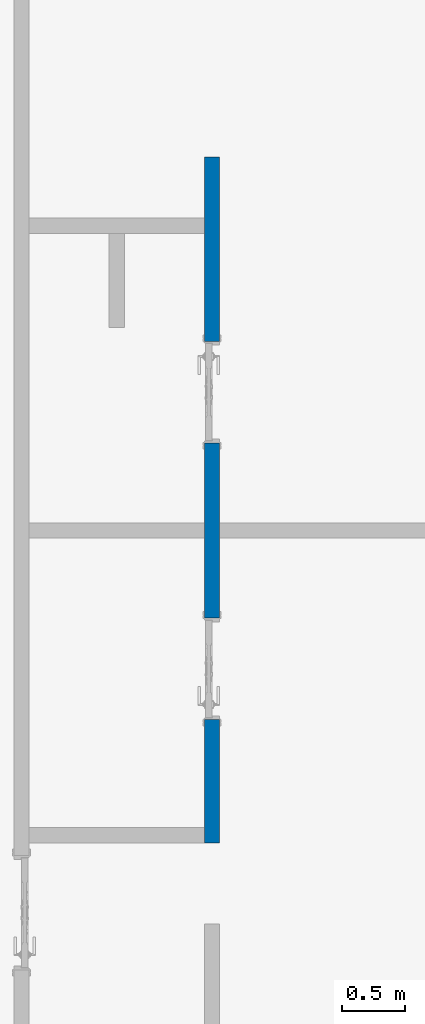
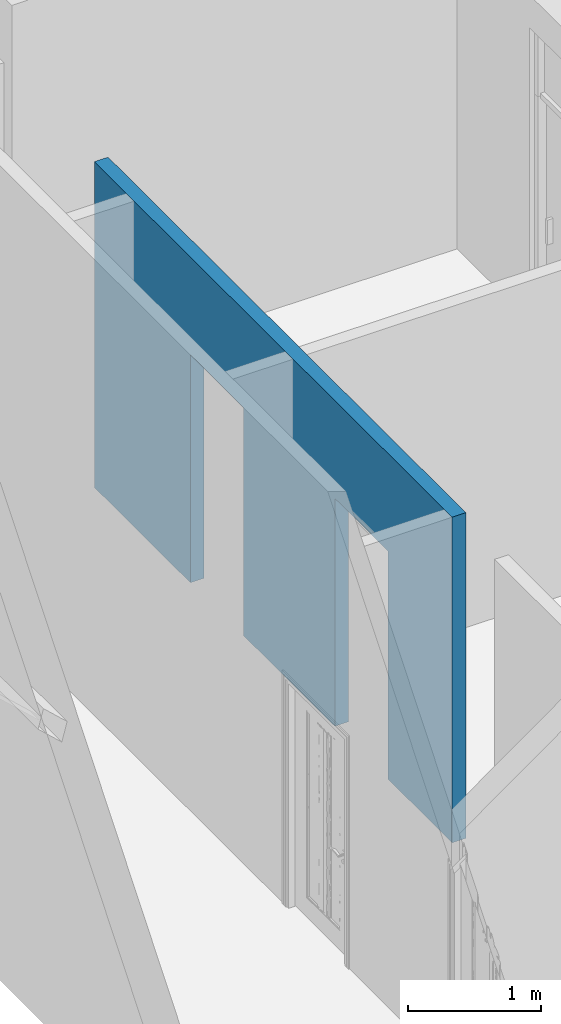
# One storey, part 23 of 33: 1 wall, 2 openings.
"""IFC2X3 building model written with IfcOpenShell, lengths in millimetres."""

import ifcopenshell
import ifcopenshell.guid

model = None  # the IFC model being written
_history = None  # IfcOwnerHistory: only IFC2X3 demands one
_inside = {}  # id of a spatial element -> (the spatial element, [elements in it])
_under = {}  # id of a project, library or spatial element -> (it, [spatial elements below it])
_declared = {}  # id of a project -> (the project, [libraries it declares])
_typed = {}  # id of a type object -> (the type object, [elements of that type])
_made_of = {}  # id of a material, layer set ... -> (it, [elements and type objects made of it])


def new_model(schema):
    """Start an empty IFC model of exactly this schema.

    Asked for "IFC4X3", IfcOpenShell would pick the latest addendum, in which some entities
    have other attributes; the version numbers below select the first issue.
    IFC2X3 requires an IfcOwnerHistory on every rooted entity: one is made here for all.
    """
    global model, _history
    if schema == "IFC4X3":
        model = ifcopenshell.file(schema_version=(4, 3, 0, 0))
    else:
        model = ifcopenshell.file(schema=schema)
    _inside.clear()
    _under.clear()
    _declared.clear()
    _typed.clear()
    _made_of.clear()
    _history = None
    if model.schema == "IFC2X3":
        org = make("IfcOrganization", Name="unknown")
        user = make(
            "IfcPersonAndOrganization",
            ThePerson=make("IfcPerson", FamilyName="unknown"),
            TheOrganization=org,
        )
        app = make(
            "IfcApplication",
            ApplicationDeveloper=org,
            Version="unknown",
            ApplicationFullName="unknown",
            ApplicationIdentifier="unknown",
        )
        _history = make(
            "IfcOwnerHistory",
            OwningUser=user,
            OwningApplication=app,
            ChangeAction="ADDED",
            CreationDate=0,
        )
    return model


def make(cls, **values):
    """One entity of the class cls with the attributes given. An attribute that is None is left unset."""
    return model.create_entity(
        cls, **{name: value for name, value in values.items() if value is not None}
    )


def entity(cls, *values):
    """Any entity or typed value of the class cls, its attributes in the order of the schema. None: left unset."""
    e = model.create_entity(cls)
    for i, value in enumerate(values):
        if value is not None:
            e[i] = value
    return e


def rooted(cls, **values):
    """An entity with a GlobalId (a new one), such as an element, a storey or a relation."""
    return make(cls, GlobalId=ifcopenshell.guid.new(), OwnerHistory=_history, **values)


def si_unit(unit_type, name, prefix=None):
    """IfcSIUnit, for example si_unit("LENGTHUNIT", "METRE", prefix="MILLI")."""
    return make("IfcSIUnit", UnitType=unit_type, Prefix=prefix, Name=name)


def converted_unit(unit_type, name, factor, base, dimensions=None, offset=None):
    """IfcConversionBasedUnit, such as the inch: factor (a typed value) times the base unit."""
    return make(
        "IfcConversionBasedUnit"
        if offset is None
        else "IfcConversionBasedUnitWithOffset",
        ConversionOffset=offset,
        Dimensions=None
        if dimensions is None
        else entity("IfcDimensionalExponents", *dimensions),
        UnitType=unit_type,
        Name=name,
        ConversionFactor=make(
            "IfcMeasureWithUnit", ValueComponent=factor, UnitComponent=base
        ),
    )


def derived_unit(unit_type, elements):
    """IfcDerivedUnit: a product of units, each with its exponent."""
    return make(
        "IfcDerivedUnit",
        Elements=[
            make("IfcDerivedUnitElement", Unit=unit, Exponent=power)
            for unit, power in elements
        ],
        UnitType=unit_type,
    )


def assignment(units):
    """IfcUnitAssignment: the units of a project."""
    return None if units is None else make("IfcUnitAssignment", Units=units)


def point(xyz):
    """IfcCartesianPoint."""
    return None if xyz is None else make("IfcCartesianPoint", Coordinates=xyz)


def direction(xyz):
    """IfcDirection."""
    return None if xyz is None else make("IfcDirection", DirectionRatios=xyz)


def frame(location, z_axis=None, x_axis=None):
    """IfcAxis2Placement3D, a coordinate frame: its origin and axes. An axis left out is left unset."""
    return make(
        "IfcAxis2Placement3D",
        Location=point(location),
        Axis=direction(z_axis),
        RefDirection=direction(x_axis),
    )


def frame_2d(location, x_axis=None):
    """IfcAxis2Placement2D, a coordinate frame in the plane: its origin and x axis."""
    return make(
        "IfcAxis2Placement2D", Location=point(location), RefDirection=direction(x_axis)
    )


def origin():
    """The frame at (0, 0, 0) with its axes left unset."""
    return frame((0.0, 0.0, 0.0))


def place(relative_to, where):
    """IfcLocalPlacement: puts the frame where relative to a parent placement (None: the world)."""
    return make(
        "IfcLocalPlacement", PlacementRelTo=relative_to, RelativePlacement=where
    )


def context(
    kind, dimensions, precision=None, world=None, true_north=None, identifier=None
):
    """IfcGeometricRepresentationContext, for example the 3D "Model" context."""
    return make(
        "IfcGeometricRepresentationContext",
        ContextIdentifier=identifier,
        ContextType=kind,
        CoordinateSpaceDimension=dimensions,
        Precision=precision,
        WorldCoordinateSystem=world,
        TrueNorth=true_north,
    )


def subcontext(parent, identifier, kind, view, scale=None):
    """IfcGeometricRepresentationSubContext, for example "Body" below "Model"."""
    return make(
        "IfcGeometricRepresentationSubContext",
        ContextIdentifier=identifier,
        ContextType=kind,
        ParentContext=parent,
        TargetScale=scale,
        TargetView=view,
    )


def project(units=None, contexts=None):
    """IfcProject with its units and contexts."""
    return rooted(
        "IfcProject",
        Name="project",
        RepresentationContexts=contexts,
        UnitsInContext=assignment(units),
    )


def spatial(cls, under=None, at=None, **own):
    """A site, building, storey or space (cls), placed at a placement, below another one or the project."""
    s = rooted(cls, ObjectPlacement=at, **own)
    if under is not None:
        _under.setdefault(under.id(), (under, []))[1].append(s)
    return s


def profile(cls, at=None, kind="AREA", **sizes):
    """A parametric profile (cls). Its sizes go by their IFC names, for example OverallWidth=200.0."""
    return make(cls, ProfileType=kind, Position=at, **sizes)


def rectangle(**sizes):
    """IfcRectangleProfileDef."""
    return profile("IfcRectangleProfileDef", **sizes)


def extrude(swept, where, along, depth):
    """IfcExtrudedAreaSolid: the profile swept, set in the frame where, extruded along a direction by depth."""
    return make(
        "IfcExtrudedAreaSolid",
        SweptArea=swept,
        Position=where,
        ExtrudedDirection=direction(along),
        Depth=depth,
    )


def shape(context_of_items, identifier, shape_type, items):
    """IfcShapeRepresentation: the items that make up one representation, for example the "Body"."""
    return make(
        "IfcShapeRepresentation",
        ContextOfItems=context_of_items,
        RepresentationIdentifier=identifier,
        RepresentationType=shape_type,
        Items=items,
    )


def material(Name=None, Category=None):
    """IfcMaterial."""
    return make("IfcMaterial", Name=Name, Category=Category)


def layer(
    of_material, thickness, ventilated=None, Name=None, Category=None, Priority=None
):
    """IfcMaterialLayer: one layer of a wall or slab, of a material (None: an air gap)."""
    return make(
        "IfcMaterialLayer",
        Material=of_material,
        LayerThickness=thickness,
        IsVentilated=ventilated,
        Name=Name,
        Category=Category,
        Priority=Priority,
    )


def layer_set(layers, Name=None):
    """IfcMaterialLayerSet."""
    return make("IfcMaterialLayerSet", MaterialLayers=layers, LayerSetName=Name)


def layer_usage(for_layer_set, set_direction, sense, offset, extent=None):
    """IfcMaterialLayerSetUsage: how a layer set lies in its element."""
    return make(
        "IfcMaterialLayerSetUsage",
        ForLayerSet=for_layer_set,
        LayerSetDirection=set_direction,
        DirectionSense=sense,
        OffsetFromReferenceLine=offset,
        ReferenceExtent=extent,
    )


def made_of(thing, what):
    """Note that an element or type object is made of a material, layer set ...; save() writes the relation."""
    if what is not None:
        _made_of.setdefault(what.id(), (what, []))[1].append(thing)
    return thing


def type_object(cls, material=None, **own):
    """A type object (cls), such as IfcWallType, which elements share."""
    return made_of(rooted(cls, **own), material)


def element(
    cls,
    number,
    at=None,
    inside=None,
    cuts=None,
    type_object=None,
    material=None,
    context=None,
    identifier="Body",
    shape_type=None,
    held_by="IfcProductDefinitionShape",
    body=None,
    shapes=None,
    **own,
):
    """One element of the class cls, such as IfcWall. Its Tag is "e" and its number.

    at: its placement. inside: the storey or other place that contains it. cuts: it is an
    opening in that element (IfcRelVoidsElement). A single representation is given by context,
    identifier, shape_type and body (its items); several are given by shapes. held_by: the class
    of the entity that holds the representations. save() writes the other relations.
    """
    e = rooted(cls, Tag="e%d" % number, ObjectPlacement=at, **own)
    if body is not None:
        shapes = [shape(context, identifier, shape_type, body)]
    if shapes is not None:
        e.Representation = make(held_by, Representations=shapes)
    if inside is not None:
        _inside.setdefault(inside.id(), (inside, []))[1].append(e)
    if cuts is not None:
        rooted(
            "IfcRelVoidsElement", RelatingBuildingElement=cuts, RelatedOpeningElement=e
        )
    if type_object is not None:
        _typed.setdefault(type_object.id(), (type_object, []))[1].append(e)
    return made_of(e, material)


def aggregate(whole, parts):
    """IfcRelAggregates: a whole, such as a stair, and the parts it consists of."""
    return rooted("IfcRelAggregates", RelatingObject=whole, RelatedObjects=parts)


def save(model, path):
    """Write the relations noted so far, then the file.

    IfcRelAggregates (storeys below a building ...), IfcRelContainedInSpatialStructure (elements
    in a storey), IfcRelDefinesByType, IfcRelAssociatesMaterial and IfcRelDeclares: one each for
    every whole, place, type object, material and project.
    """
    for whole, parts in _under.values():
        aggregate(whole, parts)
    for where, things in _inside.values():
        rooted(
            "IfcRelContainedInSpatialStructure",
            RelatedElements=things,
            RelatingStructure=where,
        )
    for kind, things in _typed.values():
        rooted("IfcRelDefinesByType", RelatedObjects=things, RelatingType=kind)
    for what, things in _made_of.values():
        rooted("IfcRelAssociatesMaterial", RelatedObjects=things, RelatingMaterial=what)
    for by, libraries in _declared.values():
        rooted("IfcRelDeclares", RelatingContext=by, RelatedDefinitions=libraries)
    model.write(path)


model = new_model("IFC2X3")

# Units and contexts
model_context = context("Model", 3, precision=0.01, world=origin(), true_north=direction((6.12303176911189e-17, 1.0)))
body_context = subcontext(model_context, "Body", "Model", "MODEL_VIEW")
ifc_project = project(units=[si_unit("LENGTHUNIT", "METRE", prefix="MILLI"), si_unit("AREAUNIT", "SQUARE_METRE"), si_unit("VOLUMEUNIT", "CUBIC_METRE"), converted_unit("PLANEANGLEUNIT", "DEGREE", entity("IfcRatioMeasure", 0.0174532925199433), si_unit("PLANEANGLEUNIT", "RADIAN"), dimensions=[0, 0, 0, 0, 0, 0, 0]), si_unit("MASSUNIT", "GRAM", prefix="KILO"), derived_unit("MASSDENSITYUNIT", [(si_unit("MASSUNIT", "GRAM", prefix="KILO"), 1), (si_unit("LENGTHUNIT", "METRE"), -3)]), si_unit("TIMEUNIT", "SECOND"), si_unit("FREQUENCYUNIT", "HERTZ"), si_unit("THERMODYNAMICTEMPERATUREUNIT", "DEGREE_CELSIUS"), derived_unit("THERMALTRANSMITTANCEUNIT", [(si_unit("MASSUNIT", "GRAM", prefix="KILO"), 1), (si_unit("THERMODYNAMICTEMPERATUREUNIT", "KELVIN"), -1), (si_unit("TIMEUNIT", "SECOND"), -3)]), derived_unit("VOLUMETRICFLOWRATEUNIT", [(si_unit("LENGTHUNIT", "METRE"), 3), (si_unit("TIMEUNIT", "SECOND"), -1)]), si_unit("ELECTRICCURRENTUNIT", "AMPERE"), si_unit("ELECTRICVOLTAGEUNIT", "VOLT"), si_unit("POWERUNIT", "WATT"), si_unit("FORCEUNIT", "NEWTON", prefix="KILO"), si_unit("ILLUMINANCEUNIT", "LUX"), si_unit("LUMINOUSFLUXUNIT", "LUMEN"), si_unit("LUMINOUSINTENSITYUNIT", "CANDELA"), derived_unit("USERDEFINED", [(si_unit("MASSUNIT", "GRAM", prefix="KILO"), -1), (si_unit("LENGTHUNIT", "METRE"), -2), (si_unit("TIMEUNIT", "SECOND"), 3), (si_unit("LUMINOUSFLUXUNIT", "LUMEN"), 1)]), derived_unit("LINEARVELOCITYUNIT", [(si_unit("LENGTHUNIT", "METRE"), 1), (si_unit("TIMEUNIT", "SECOND"), -1)]), si_unit("PRESSUREUNIT", "PASCAL"), derived_unit("USERDEFINED", [(si_unit("LENGTHUNIT", "METRE"), -2), (si_unit("MASSUNIT", "GRAM", prefix="KILO"), 1), (si_unit("TIMEUNIT", "SECOND"), -2)])], contexts=[model_context])

# Site, building, storey
site_placement = place(None, origin())
site = spatial("IfcSite", under=ifc_project, at=site_placement, Name="表面", CompositionType="ELEMENT")
building_placement = place(site_placement, origin())
building = spatial("IfcBuilding", under=site, at=building_placement, CompositionType="ELEMENT")
storey_placement = place(building_placement, frame((0.0, 0.0, 6000.0)))
storey = spatial("IfcBuildingStorey", under=building, at=storey_placement, Name="3F", CompositionType="ELEMENT", Elevation=6000.00000000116)

# Wall, openings
ifc_material_1 = material(Name="白色涂料")
ifc_layer_1 = layer(ifc_material_1, 10.0)
ifc_material_2 = material(Name="默认墙")
ifc_layer_2 = layer(ifc_material_2, 100.0)
ifc_layer_3 = layer(ifc_material_1, 10.0)
ifc_layer_set = layer_set([ifc_layer_1, ifc_layer_2, ifc_layer_3], Name="基本墙:粉刷墙120")
ifc_layer_usage = layer_usage(ifc_layer_set, "AXIS2", "NEGATIVE", 60.0)
wall_type = type_object("IfcWallType", Name="基本墙:粉刷墙120", PredefinedType="STANDARD", material=ifc_layer_set)
wall_placement = place(storey_placement, frame((-10630.2499126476, -10176.868426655, 0.0), z_axis=(0.0, 0.0, 1.0), x_axis=(0.0, -1.0, 0.0)))
wall = element("IfcWallStandardCase", 1, at=wall_placement, inside=storey, type_object=wall_type, material=ifc_layer_usage, Name="基本墙:粉刷墙120", ObjectType="基本墙:粉刷墙120", context=body_context, shape_type="SweptSolid", body=[
    extrude(rectangle(XDim=5400.0, YDim=119.999999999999, at=frame_2d((2700.0, -2.59348098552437e-13), x_axis=(-1.0, 0.0))), origin(), (0.0, 0.0, 1.0), 3000.0),
])
opening_1_placement = place(wall_placement, frame((2250.0, 60.0, 1.15433635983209e-09)))
element("IfcOpeningElement", 2, at=opening_1_placement, cuts=wall, Name="装饰木门:M0821:1", ObjectType="Opening", context=body_context, shape_type="SweptSolid", body=[
    extrude(rectangle(XDim=2099.99999999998, YDim=800.0, at=frame_2d((1049.99999999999, 400.0), x_axis=(1.0, 0.0))), frame((0.0, 0.0, 0.0), z_axis=(0.0, -1.0, 0.0), x_axis=(0.0, 0.0, 1.0)), (0.0, 0.0, 1.0), 120.0),
])
opening_2_placement = place(wall_placement, frame((4430.0, 60.0, 1.15433635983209e-09)))
element("IfcOpeningElement", 3, at=opening_2_placement, cuts=wall, Name="装饰木门:M0821:1", ObjectType="Opening", context=body_context, shape_type="SweptSolid", body=[
    extrude(rectangle(XDim=2099.99999999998, YDim=800.0, at=frame_2d((1049.99999999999, 400.0), x_axis=(1.0, 0.0))), frame((0.0, 0.0, 0.0), z_axis=(0.0, -1.0, 0.0), x_axis=(0.0, 0.0, 1.0)), (0.0, 0.0, 1.0), 120.0),
])

save(model, "model.ifc")
